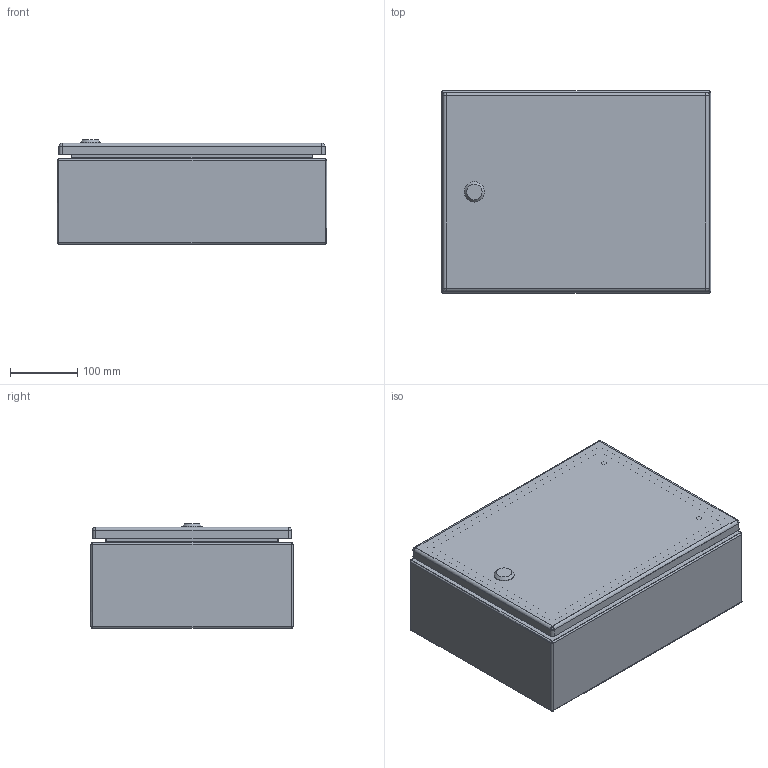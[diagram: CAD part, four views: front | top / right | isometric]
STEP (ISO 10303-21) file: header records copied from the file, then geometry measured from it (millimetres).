
FILE_DESCRIPTION (( 'STEP AP203' ), '1' );
FILE_NAME ('EC040315EEX.STEP', '2023-06-30T11:37:31', ( '' ), ( '' ), 'SwSTEP 2.0', 'SolidWorks 2022', '' );
FILE_SCHEMA (( 'CONFIG_CONTROL_DESIGN' ));
Length unit declared in the file: millimetre
Products named in the file (6): AR_EC_EEX_involucro_0400x0300x0150; AR_EC_EEX_porta_singola_0400x0300; AR_EC_EEX_montaggio_porta_singola_0400x0300; AR_ECOR_X_Piastra_06; AR_EC_EEX_chiusura_std_STD; EC040315EEX
Assembly tree (5 placements, depth 3):
  EC040315EEX
    AR_EC_EEX_involucro_0400x0300x0150
    AR_ECOR_X_Piastra_06
    AR_EC_EEX_montaggio_porta_singola_0400x0300
      AR_EC_EEX_porta_singola_0400x0300
      AR_EC_EEX_chiusura_std_STD
Bounding box: 400 x 300 x 155 mm (x, y, z)
Volume: 980502.4 mm3; surface area: 1150294.4 mm2
Topology: 4 solids, 4 shells, 267 faces, 613 edges, 357 vertices
Faces by surface type: plane 119, cylinder 113, sphere 20, cone 6, torus 5, bspline 4
Full cylindrical faces by diameter (mm): 4.5 x8, 5.5 x2, 6 x3, 7 x4, 8 x7, 9.5 x4, 10 x8, 30 x1
Entity records: 8064 total; most frequent: CARTESIAN_POINT 1624, DIRECTION 1257, ORIENTED_EDGE 1082, EDGE_CURVE 541, AXIS2_PLACEMENT_3D 473, EDGE_LOOP 376, VERTEX_POINT 353, LINE 311
